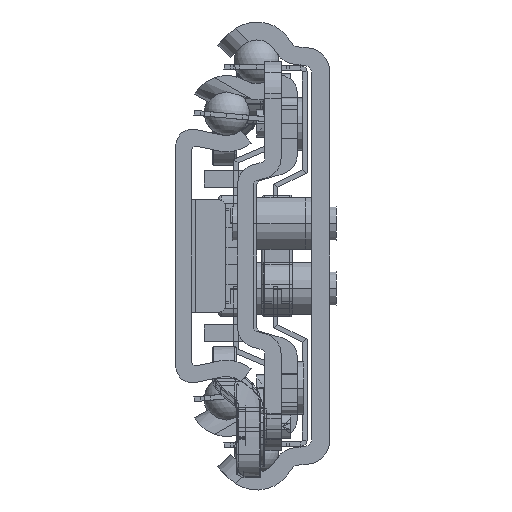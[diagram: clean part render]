
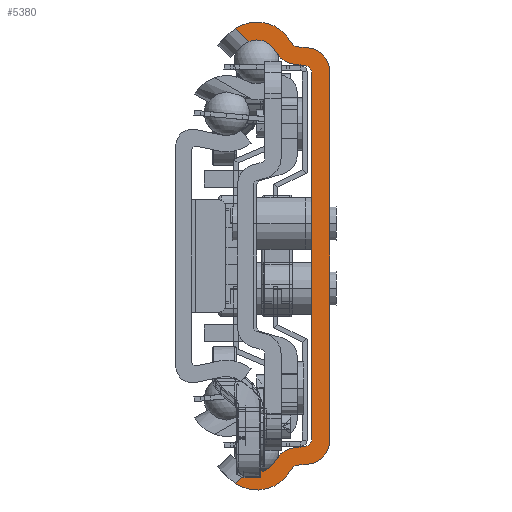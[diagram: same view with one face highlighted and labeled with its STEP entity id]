
A CAD part, left-side view. The second image highlights one B-rep face of the part: STEP entity #5380.
In plain terms, the highlighted planar face has unit normal (-1, 0, 0).
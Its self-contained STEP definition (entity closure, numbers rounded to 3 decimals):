
#1=DIRECTION('',(0.,0.717,-0.697));
#2=VECTOR('',#1,2.305);
#3=CARTESIAN_POINT('',(-650.,9.972,-26.461));
#4=LINE('',#3,#2);
#5=CARTESIAN_POINT('',(-650.,9.,-24.05));
#6=DIRECTION('',(-1.,0.,0.));
#7=DIRECTION('',(0.,0.374,-0.927));
#8=AXIS2_PLACEMENT_3D('',#5,#6,#7);
#10=CARTESIAN_POINT('',(-650.,4.005,-26.582));
#11=DIRECTION('',(-1.,0.,0.));
#12=DIRECTION('',(0.,0.07,0.998));
#13=AXIS2_PLACEMENT_3D('',#10,#11,#12);
#15=DIRECTION('',(0.,-0.998,0.07));
#16=VECTOR('',#15,1.087);
#17=CARTESIAN_POINT('',(-650.,4.214,-23.589));
#18=LINE('',#17,#16);
#19=DIRECTION('',(0.,0.,1.));
#20=VECTOR('',#19,45.032);
#21=CARTESIAN_POINT('',(-650.,2.2,-22.516));
#22=LINE('',#21,#20);
#23=DIRECTION('',(0.,0.998,0.07));
#24=VECTOR('',#23,1.087);
#25=CARTESIAN_POINT('',(-650.,3.13,23.514));
#26=LINE('',#25,#24);
#27=CARTESIAN_POINT('',(-650.,4.005,26.582));
#28=DIRECTION('',(-1.,0.,0.));
#29=DIRECTION('',(0.,0.892,-0.452));
#30=AXIS2_PLACEMENT_3D('',#27,#28,#29);
#32=CARTESIAN_POINT('',(-650.,9.,24.05));
#33=DIRECTION('',(-1.,0.,0.));
#34=DIRECTION('',(0.,-0.892,0.452));
#35=AXIS2_PLACEMENT_3D('',#32,#33,#34);
#37=DIRECTION('',(0.,-0.717,-0.697));
#38=VECTOR('',#37,2.305);
#39=CARTESIAN_POINT('',(-650.,11.624,28.069));
#40=LINE('',#39,#38);
#41=CARTESIAN_POINT('',(-650.,9.,24.05));
#42=DIRECTION('',(1.,0.,0.));
#43=DIRECTION('',(0.,0.547,0.837));
#44=AXIS2_PLACEMENT_3D('',#41,#42,#43);
#46=DIRECTION('',(0.,-0.998,-0.07));
#47=VECTOR('',#46,1.161);
#48=CARTESIAN_POINT('',(-650.,3.949,25.776));
#49=LINE('',#48,#47);
#50=CARTESIAN_POINT('',(-650.,3.,22.702));
#51=DIRECTION('',(-1.,0.,0.));
#52=DIRECTION('',(0.,-1.,0.));
#53=AXIS2_PLACEMENT_3D('',#50,#51,#52);
#55=DIRECTION('',(0.,0.,-1.));
#56=VECTOR('',#55,45.405);
#57=CARTESIAN_POINT('',(-650.,0.,22.702));
#58=LINE('',#57,#56);
#59=CARTESIAN_POINT('',(-650.,3.,-22.702));
#60=DIRECTION('',(-1.,0.,0.));
#61=DIRECTION('',(0.,-0.07,-0.998));
#62=AXIS2_PLACEMENT_3D('',#59,#60,#61);
#64=DIRECTION('',(0.,0.998,-0.07));
#65=VECTOR('',#64,1.161);
#66=CARTESIAN_POINT('',(-650.,2.791,-25.695));
#67=LINE('',#66,#65);
#68=CARTESIAN_POINT('',(-650.,9.,-24.05));
#69=DIRECTION('',(1.,0.,0.));
#70=DIRECTION('',(0.,-0.883,-0.47));
#71=AXIS2_PLACEMENT_3D('',#68,#69,#70);
#79=CARTESIAN_POINT('',(-650.,11.624,-28.069));
#103=CARTESIAN_POINT('',(-650.,9.972,-26.461));
#195=CARTESIAN_POINT('',(-650.,11.624,28.069));
#201=CARTESIAN_POINT('',(-650.,3.879,26.774));
#202=DIRECTION('',(1.,0.,0.));
#203=DIRECTION('',(0.,0.07,-0.998));
#204=AXIS2_PLACEMENT_3D('',#201,#202,#203);
#1227=CARTESIAN_POINT('',(-650.,3.879,-26.774));
#1228=DIRECTION('',(1.,0.,0.));
#1229=DIRECTION('',(0.,0.883,0.47));
#1230=AXIS2_PLACEMENT_3D('',#1227,#1228,#1229);
#2322=CARTESIAN_POINT('',(-650.,3.2,-22.516));
#2323=DIRECTION('',(1.,0.,0.));
#2324=DIRECTION('',(0.,-1.,0.));
#2325=AXIS2_PLACEMENT_3D('',#2322,#2323,#2324);
#2340=CARTESIAN_POINT('',(-650.,3.2,22.516));
#2341=DIRECTION('',(1.,0.,0.));
#2342=DIRECTION('',(0.,-0.07,0.998));
#2343=AXIS2_PLACEMENT_3D('',#2340,#2341,#2342);
#2364=CARTESIAN_POINT('',(-650.,9.972,26.461));
#4197=CARTESIAN_POINT('',(-650.,2.2,-22.516));
#4199=VERTEX_POINT('',#4197);
#4201=CARTESIAN_POINT('',(-650.,3.13,-23.514));
#4203=VERTEX_POINT('',#4201);
#4205=CARTESIAN_POINT('',(-650.,3.13,23.514));
#4207=VERTEX_POINT('',#4205);
#4209=CARTESIAN_POINT('',(-650.,2.2,22.516));
#4211=VERTEX_POINT('',#4209);
#4213=CARTESIAN_POINT('',(-650.,3.949,25.776));
#4215=VERTEX_POINT('',#4213);
#4217=CARTESIAN_POINT('',(-650.,4.762,26.304));
#4219=VERTEX_POINT('',#4217);
#4221=CARTESIAN_POINT('',(-650.,4.762,-26.304));
#4223=VERTEX_POINT('',#4221);
#4225=CARTESIAN_POINT('',(-650.,3.949,-25.776));
#4227=VERTEX_POINT('',#4225);
#4229=CARTESIAN_POINT('',(-650.,4.214,-23.589));
#4230=CARTESIAN_POINT('',(-650.,6.681,-25.226));
#4231=VERTEX_POINT('',#4229);
#4232=VERTEX_POINT('',#4230);
#4237=CARTESIAN_POINT('',(-650.,6.681,25.226));
#4238=CARTESIAN_POINT('',(-650.,4.214,23.589));
#4239=VERTEX_POINT('',#4237);
#4240=VERTEX_POINT('',#4238);
#4245=CARTESIAN_POINT('',(-650.,0.,22.702));
#4246=CARTESIAN_POINT('',(-650.,2.791,25.695));
#4247=VERTEX_POINT('',#4245);
#4248=VERTEX_POINT('',#4246);
#4253=CARTESIAN_POINT('',(-650.,2.791,-25.695));
#4254=CARTESIAN_POINT('',(-650.,0.,-22.702));
#4255=VERTEX_POINT('',#4253);
#4256=VERTEX_POINT('',#4254);
#4603=VERTEX_POINT('',#79);
#4611=VERTEX_POINT('',#103);
#4612=VERTEX_POINT('',#2364);
#4620=VERTEX_POINT('',#195);
#5333=CARTESIAN_POINT('',(-650.,0.,0.));
#5334=DIRECTION('',(1.,0.,0.));
#5335=DIRECTION('',(0.,-1.,0.));
#5336=AXIS2_PLACEMENT_3D('',#5333,#5334,#5335);
#5337=PLANE('',#5336);
#5339=ORIENTED_EDGE('',*,*,#5338,.F.);
#5341=ORIENTED_EDGE('',*,*,#5340,.T.);
#5343=ORIENTED_EDGE('',*,*,#5342,.F.);
#5345=ORIENTED_EDGE('',*,*,#5344,.T.);
#5347=ORIENTED_EDGE('',*,*,#5346,.F.);
#5349=ORIENTED_EDGE('',*,*,#5348,.T.);
#5351=ORIENTED_EDGE('',*,*,#5350,.F.);
#5353=ORIENTED_EDGE('',*,*,#5352,.T.);
#5355=ORIENTED_EDGE('',*,*,#5354,.F.);
#5357=ORIENTED_EDGE('',*,*,#5356,.T.);
#5359=ORIENTED_EDGE('',*,*,#5358,.F.);
#5361=ORIENTED_EDGE('',*,*,#5360,.T.);
#5363=ORIENTED_EDGE('',*,*,#5362,.F.);
#5365=ORIENTED_EDGE('',*,*,#5364,.T.);
#5367=ORIENTED_EDGE('',*,*,#5366,.F.);
#5369=ORIENTED_EDGE('',*,*,#5368,.T.);
#5371=ORIENTED_EDGE('',*,*,#5370,.F.);
#5373=ORIENTED_EDGE('',*,*,#5372,.T.);
#5375=ORIENTED_EDGE('',*,*,#5374,.F.);
#5377=ORIENTED_EDGE('',*,*,#5376,.T.);
#5378=EDGE_LOOP('',(#5339,#5341,#5343,#5345,#5347,#5349,#5351,#5353,#5355,#5357,
#5359,#5361,#5363,#5365,#5367,#5369,#5371,#5373,#5375,#5377));
#5379=FACE_OUTER_BOUND('',#5378,.F.);
#9=CIRCLE('',#8,2.6);
#14=CIRCLE('',#13,3.);
#31=CIRCLE('',#30,3.);
#36=CIRCLE('',#35,2.6);
#45=CIRCLE('',#44,4.8);
#54=CIRCLE('',#53,3.);
#63=CIRCLE('',#62,3.);
#72=CIRCLE('',#71,4.8);
#205=CIRCLE('',#204,1.);
#1231=CIRCLE('',#1230,1.);
#2326=CIRCLE('',#2325,1.);
#2344=CIRCLE('',#2343,1.);
#5338=EDGE_CURVE('',#4611,#4603,#4,.T.);
#5340=EDGE_CURVE('',#4611,#4232,#9,.T.);
#5342=EDGE_CURVE('',#4231,#4232,#14,.T.);
#5344=EDGE_CURVE('',#4231,#4203,#18,.T.);
#5346=EDGE_CURVE('',#4199,#4203,#2326,.T.);
#5348=EDGE_CURVE('',#4199,#4211,#22,.T.);
#5350=EDGE_CURVE('',#4207,#4211,#2344,.T.);
#5352=EDGE_CURVE('',#4207,#4240,#26,.T.);
#5354=EDGE_CURVE('',#4239,#4240,#31,.T.);
#5356=EDGE_CURVE('',#4239,#4612,#36,.T.);
#5358=EDGE_CURVE('',#4620,#4612,#40,.T.);
#5360=EDGE_CURVE('',#4620,#4219,#45,.T.);
#5362=EDGE_CURVE('',#4215,#4219,#205,.T.);
#5364=EDGE_CURVE('',#4215,#4248,#49,.T.);
#5366=EDGE_CURVE('',#4247,#4248,#54,.T.);
#5368=EDGE_CURVE('',#4247,#4256,#58,.T.);
#5370=EDGE_CURVE('',#4255,#4256,#63,.T.);
#5372=EDGE_CURVE('',#4255,#4227,#67,.T.);
#5374=EDGE_CURVE('',#4223,#4227,#1231,.T.);
#5376=EDGE_CURVE('',#4223,#4603,#72,.T.);
#5380=ADVANCED_FACE('',(#5379),#5337,.F.);
